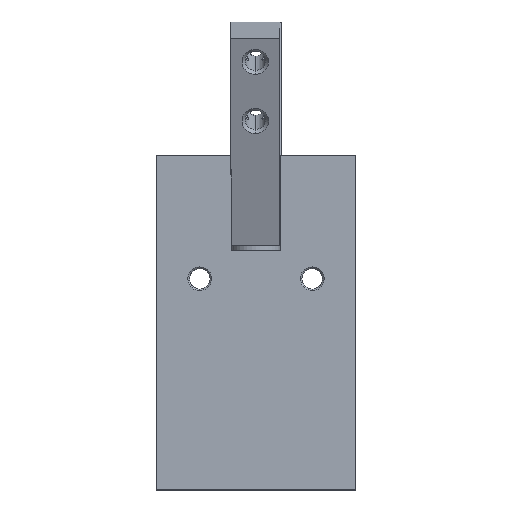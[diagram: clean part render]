
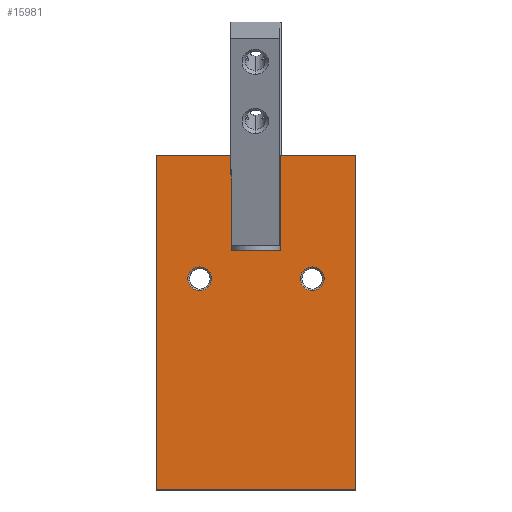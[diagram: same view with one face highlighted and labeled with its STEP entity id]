
A CAD part, left-side view. The second image highlights one B-rep face of the part: STEP entity #15981.
In plain terms, the highlighted planar face has unit normal (-1, 0, 0).
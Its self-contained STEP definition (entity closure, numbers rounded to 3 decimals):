
#146 = LINE ( 'NONE', #24112, #3992 ) ;
#172 = EDGE_CURVE ( 'NONE', #4464, #4501, #8891, .T. ) ;
#283 = VERTEX_POINT ( 'NONE', #6611 ) ;
#298 = CARTESIAN_POINT ( 'NONE',  ( -16., 3.95, 38.3 ) ) ;
#1011 = VERTEX_POINT ( 'NONE', #11091 ) ;
#1631 = CARTESIAN_POINT ( 'NONE',  ( -16., -3.95, 38.3 ) ) ;
#1788 = ORIENTED_EDGE ( 'NONE', *, *, #3217, .T. ) ;
#1889 = EDGE_CURVE ( 'NONE', #14266, #17782, #26514, .T. ) ;
#2041 = FACE_OUTER_BOUND ( 'NONE', #26681, .T. ) ;
#2657 = CIRCLE ( 'NONE', #17057, 1.9 ) ;
#2767 = CIRCLE ( 'NONE', #16110, 1.9 ) ;
#3217 = EDGE_CURVE ( 'NONE', #1011, #21595, #2767, .T. ) ;
#3496 = CARTESIAN_POINT ( 'NONE',  ( -16., -16., 53.5 ) ) ;
#3498 = ORIENTED_EDGE ( 'NONE', *, *, #25880, .F. ) ;
#3526 = VECTOR ( 'NONE', #11501, 1000. ) ;
#3992 = VECTOR ( 'NONE', #8820, 1000. ) ;
#4182 = DIRECTION ( 'NONE',  ( 0., 1., 0. ) ) ;
#4282 = EDGE_CURVE ( 'NONE', #283, #20902, #19664, .T. ) ;
#4287 = CARTESIAN_POINT ( 'NONE',  ( -16., -9., 33.8 ) ) ;
#4457 = LINE ( 'NONE', #26143, #22917 ) ;
#4464 = VERTEX_POINT ( 'NONE', #20370 ) ;
#4501 = VERTEX_POINT ( 'NONE', #24994 ) ;
#4596 = CARTESIAN_POINT ( 'NONE',  ( -16., 9., 33.8 ) ) ;
#4654 = DIRECTION ( 'NONE',  ( 0., 0., -1. ) ) ;
#4799 = AXIS2_PLACEMENT_3D ( 'NONE', #25126, #9615, #11746 ) ;
#4850 = VECTOR ( 'NONE', #21391, 1000. ) ;
#5814 = CARTESIAN_POINT ( 'NONE',  ( -16., 3.95, 38.3 ) ) ;
#6281 = DIRECTION ( 'NONE',  ( 0., 0., -1. ) ) ;
#6484 = ORIENTED_EDGE ( 'NONE', *, *, #16355, .F. ) ;
#6566 = ORIENTED_EDGE ( 'NONE', *, *, #172, .T. ) ;
#6611 = CARTESIAN_POINT ( 'NONE',  ( -16., 16., 0. ) ) ;
#6859 = EDGE_CURVE ( 'NONE', #17782, #26945, #18355, .T. ) ;
#7035 = ORIENTED_EDGE ( 'NONE', *, *, #19161, .T. ) ;
#7189 = CARTESIAN_POINT ( 'NONE',  ( -16., -9., 31.9 ) ) ;
#7793 = VECTOR ( 'NONE', #18159, 1000. ) ;
#8441 = VERTEX_POINT ( 'NONE', #3496 ) ;
#8820 = DIRECTION ( 'NONE',  ( 0., 0., 1. ) ) ;
#8891 = CIRCLE ( 'NONE', #24836, 1.9 ) ;
#8928 = ORIENTED_EDGE ( 'NONE', *, *, #6859, .F. ) ;
#9063 = DIRECTION ( 'NONE',  ( 0., 1., 0. ) ) ;
#9615 = DIRECTION ( 'NONE',  ( 1., 0., 0. ) ) ;
#10883 = DIRECTION ( 'NONE',  ( 1., 0., 0. ) ) ;
#11091 = CARTESIAN_POINT ( 'NONE',  ( -16., -9., 35.7 ) ) ;
#11501 = DIRECTION ( 'NONE',  ( 0., -1., 0. ) ) ;
#11628 = CIRCLE ( 'NONE', #19785, 1.9 ) ;
#11633 = CARTESIAN_POINT ( 'NONE',  ( -16., 16., 53.5 ) ) ;
#11746 = DIRECTION ( 'NONE',  ( 0., 1., 0. ) ) ;
#12043 = EDGE_CURVE ( 'NONE', #8441, #20902, #4457, .T. ) ;
#12138 = LINE ( 'NONE', #13391, #27129 ) ;
#12390 = VECTOR ( 'NONE', #18116, 1000. ) ;
#12539 = ORIENTED_EDGE ( 'NONE', *, *, #1889, .F. ) ;
#12810 = CARTESIAN_POINT ( 'NONE',  ( -16., 9., 33.8 ) ) ;
#12881 = ORIENTED_EDGE ( 'NONE', *, *, #23900, .T. ) ;
#12990 = CARTESIAN_POINT ( 'NONE',  ( -16., 16., 0. ) ) ;
#13088 = EDGE_CURVE ( 'NONE', #14266, #23185, #146, .T. ) ;
#13391 = CARTESIAN_POINT ( 'NONE',  ( -16., 16., 53.5 ) ) ;
#14266 = VERTEX_POINT ( 'NONE', #5814 ) ;
#15152 = DIRECTION ( 'NONE',  ( 1., 0., 0. ) ) ;
#15872 = LINE ( 'NONE', #11633, #12390 ) ;
#15981 = ADVANCED_FACE ( 'NONE', ( #22223, #24355, #2041 ), #25030, .F. ) ;
#16110 = AXIS2_PLACEMENT_3D ( 'NONE', #4287, #10883, #4182 ) ;
#16355 = EDGE_CURVE ( 'NONE', #26945, #8441, #15872, .T. ) ;
#16651 = DIRECTION ( 'NONE',  ( 0., 1., 0. ) ) ;
#17057 = AXIS2_PLACEMENT_3D ( 'NONE', #23328, #27813, #16651 ) ;
#17441 = DIRECTION ( 'NONE',  ( 0., 1., 0. ) ) ;
#17782 = VERTEX_POINT ( 'NONE', #28304 ) ;
#17990 = EDGE_CURVE ( 'NONE', #23744, #283, #12138, .T. ) ;
#18116 = DIRECTION ( 'NONE',  ( 0., -1., 0. ) ) ;
#18159 = DIRECTION ( 'NONE',  ( 0., -1., 0. ) ) ;
#18355 = LINE ( 'NONE', #1631, #4850 ) ;
#18500 = CARTESIAN_POINT ( 'NONE',  ( -16., 16., 53.5 ) ) ;
#18693 = EDGE_LOOP ( 'NONE', ( #6566, #7035 ) ) ;
#19161 = EDGE_CURVE ( 'NONE', #4501, #4464, #11628, .T. ) ;
#19664 = LINE ( 'NONE', #12990, #28758 ) ;
#19785 = AXIS2_PLACEMENT_3D ( 'NONE', #4596, #22385, #9063 ) ;
#20370 = CARTESIAN_POINT ( 'NONE',  ( -16., 9., 35.7 ) ) ;
#20783 = ORIENTED_EDGE ( 'NONE', *, *, #13088, .T. ) ;
#20902 = VERTEX_POINT ( 'NONE', #25429 ) ;
#21008 = LINE ( 'NONE', #25223, #7793 ) ;
#21391 = DIRECTION ( 'NONE',  ( 0., 0., 1. ) ) ;
#21595 = VERTEX_POINT ( 'NONE', #7189 ) ;
#22223 = FACE_BOUND ( 'NONE', #25104, .T. ) ;
#22385 = DIRECTION ( 'NONE',  ( 1., 0., 0. ) ) ;
#22917 = VECTOR ( 'NONE', #6281, 1000. ) ;
#23185 = VERTEX_POINT ( 'NONE', #25558 ) ;
#23328 = CARTESIAN_POINT ( 'NONE',  ( -16., -9., 33.8 ) ) ;
#23744 = VERTEX_POINT ( 'NONE', #18500 ) ;
#23900 = EDGE_CURVE ( 'NONE', #21595, #1011, #2657, .T. ) ;
#24112 = CARTESIAN_POINT ( 'NONE',  ( -16., 3.95, 38.3 ) ) ;
#24322 = DIRECTION ( 'NONE',  ( 0., -1., 0. ) ) ;
#24355 = FACE_BOUND ( 'NONE', #18693, .T. ) ;
#24633 = ORIENTED_EDGE ( 'NONE', *, *, #4282, .T. ) ;
#24836 = AXIS2_PLACEMENT_3D ( 'NONE', #12810, #15152, #17441 ) ;
#24994 = CARTESIAN_POINT ( 'NONE',  ( -16., 9., 31.9 ) ) ;
#25030 = PLANE ( 'NONE',  #4799 ) ;
#25104 = EDGE_LOOP ( 'NONE', ( #1788, #12881 ) ) ;
#25126 = CARTESIAN_POINT ( 'NONE',  ( -16., 16., 53.5 ) ) ;
#25199 = ORIENTED_EDGE ( 'NONE', *, *, #12043, .F. ) ;
#25223 = CARTESIAN_POINT ( 'NONE',  ( -16., 16., 53.5 ) ) ;
#25429 = CARTESIAN_POINT ( 'NONE',  ( -16., -16., 0. ) ) ;
#25558 = CARTESIAN_POINT ( 'NONE',  ( -16., 3.95, 53.5 ) ) ;
#25844 = CARTESIAN_POINT ( 'NONE',  ( -16., -3.95, 53.5 ) ) ;
#25880 = EDGE_CURVE ( 'NONE', #23744, #23185, #21008, .T. ) ;
#26143 = CARTESIAN_POINT ( 'NONE',  ( -16., -16., 53.5 ) ) ;
#26514 = LINE ( 'NONE', #298, #3526 ) ;
#26681 = EDGE_LOOP ( 'NONE', ( #12539, #20783, #3498, #28278, #24633, #25199, #6484, #8928 ) ) ;
#26945 = VERTEX_POINT ( 'NONE', #25844 ) ;
#27129 = VECTOR ( 'NONE', #4654, 1000. ) ;
#27813 = DIRECTION ( 'NONE',  ( 1., 0., 0. ) ) ;
#28278 = ORIENTED_EDGE ( 'NONE', *, *, #17990, .T. ) ;
#28304 = CARTESIAN_POINT ( 'NONE',  ( -16., -3.95, 38.3 ) ) ;
#28758 = VECTOR ( 'NONE', #24322, 1000. ) ;
